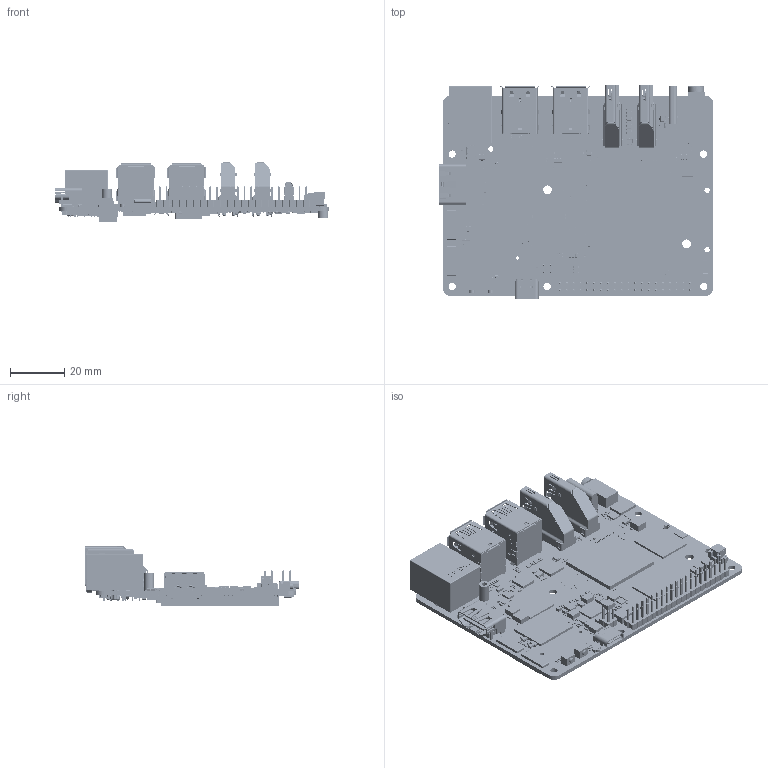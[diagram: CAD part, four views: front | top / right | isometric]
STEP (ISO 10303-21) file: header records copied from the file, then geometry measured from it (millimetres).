
FILE_DESCRIPTION((''),'2;1');
FILE_NAME('RS129_PCBA_3D_ASM','2024-10-24T10:06:49',('admin'),(''),'CREO PARAMETRIC BY PTC INC, 2024273','CREO PARAMETRIC BY PTC INC, 2024273','');
FILE_SCHEMA(('CONFIG_CONTROL_DESIGN','SHAPE_APPEARANCE_LAYERS_GROUPS'));
Products named in the file (610): RS129_PCBA_3D_1_1; RS129_PCBA_3D_1_2; RS129_PCBA_3D_1_3; RS129_PCBA_3D_1_4; RS129_PCBA_3D_1_5; RS129_PCBA_3D_1_6; RS129_PCBA_3D_1_7; RS129_PCBA_3D_1_8; RS129_PCBA_3D_1_9; RS129_PCBA_3D_1_10; RS129_PCBA_3D_1_11; RS129_PCBA_3D_1_12; RS129_PCBA_3D_1_13; RS129_PCBA_3D_1_14; RS129_PCBA_3D_1_15; RS129_PCBA_3D_1_16; RS129_PCBA_3D_1_17; RS129_PCBA_3D_1_18; RS129_PCBA_3D_1_19; RS129_PCBA_3D_1_20; RS129_PCBA_3D_1_21; RS129_PCBA_3D_1_22; RS129_PCBA_3D_1_23; RS129_PCBA_3D_1_24; RS129_PCBA_3D_1_25; RS129_PCBA_3D_1_26; RS129_PCBA_3D_1_27; RS129_PCBA_3D_1_28; RS129_PCBA_3D_1_29; RS129_PCBA_3D_1_30; RS129_PCBA_3D_1_31; RS129_PCBA_3D_1_32; RS129_PCBA_3D_1_33; RS129_PCBA_3D_1_34; RS129_PCBA_3D_1_35; RS129_PCBA_3D_1_36; RS129_PCBA_3D_1_37; RS129_PCBA_3D_1_38; RS129_PCBA_3D_1_39; RS129_PCBA_3D_1_40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
Assembly tree (609 placements, depth 3):
  RS129_PCBA_3D_ASM
    RS129_PCBA_3D_1_ASM
      RS129_PCBA_3D_1_1
      RS129_PCBA_3D_1_2
      RS129_PCBA_3D_1_3
      RS129_PCBA_3D_1_4
      RS129_PCBA_3D_1_5
      RS129_PCBA_3D_1_6
      RS129_PCBA_3D_1_7
      RS129_PCBA_3D_1_8
      RS129_PCBA_3D_1_9
      RS129_PCBA_3D_1_10
      RS129_PCBA_3D_1_11
      RS129_PCBA_3D_1_12
      RS129_PCBA_3D_1_13
      RS129_PCBA_3D_1_14
      RS129_PCBA_3D_1_15
      RS129_PCBA_3D_1_16
      RS129_PCBA_3D_1_17
      RS129_PCBA_3D_1_18
      RS129_PCBA_3D_1_19
      RS129_PCBA_3D_1_20
      RS129_PCBA_3D_1_21
      RS129_PCBA_3D_1_22
      RS129_PCBA_3D_1_23
      RS129_PCBA_3D_1_24
      RS129_PCBA_3D_1_25
      RS129_PCBA_3D_1_26
      RS129_PCBA_3D_1_27
      RS129_PCBA_3D_1_28
      RS129_PCBA_3D_1_29
      RS129_PCBA_3D_1_30
      RS129_PCBA_3D_1_31
      RS129_PCBA_3D_1_32
      RS129_PCBA_3D_1_33
      RS129_PCBA_3D_1_34
      RS129_PCBA_3D_1_35
      RS129_PCBA_3D_1_36
      RS129_PCBA_3D_1_37
      RS129_PCBA_3D_1_38
      RS129_PCBA_3D_1_39
      RS129_PCBA_3D_1_40
      RS129_PCBA_3D_1_41
      RS129_PCBA_3D_1_42
      RS129_PCBA_3D_1_43
      RS129_PCBA_3D_1_44
      RS129_PCBA_3D_1_45
      RS129_PCBA_3D_1_46
      RS129_PCBA_3D_1_47
      RS129_PCBA_3D_1_48
      RS129_PCBA_3D_1_49
      RS129_PCBA_3D_1_50
      RS129_PCBA_3D_1_51
      RS129_PCBA_3D_1_52
      RS129_PCBA_3D_1_53
      RS129_PCBA_3D_1_54
      RS129_PCBA_3D_1_55
      RS129_PCBA_3D_1_56
      RS129_PCBA_3D_1_57
      RS129_PCBA_3D_1_58
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Bounding box: 101.69 x 79.09 x 21.95 mm (x, y, z)
Volume: 27801.8 mm3; surface area: 42175.6 mm2
Topology: 383 solids, 1214 shells, 41358 faces, 102072 edges, 60425 vertices
Faces by surface type: plane 25066, cylinder 13357, sphere 2410, extrusion 317, bspline 106, cone 76, torus 26
Entity records: 1202975 total; most frequent: CARTESIAN_POINT 245632, DIRECTION 194227, ORIENTED_EDGE 190972, EDGE_CURVE 99648, VECTOR 70869, LINE 70552, AXIS2_PLACEMENT_3D 61679, VERTEX_POINT 60425
